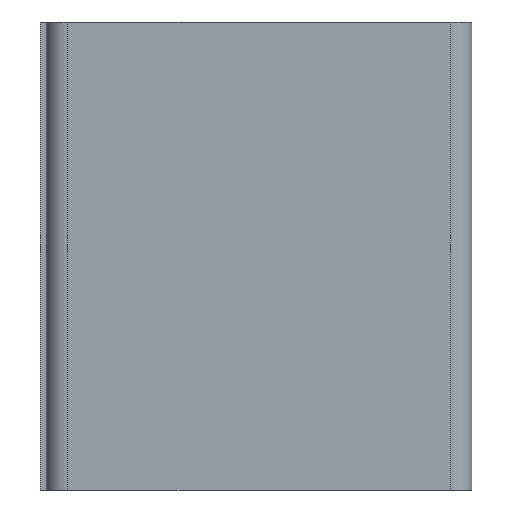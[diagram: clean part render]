
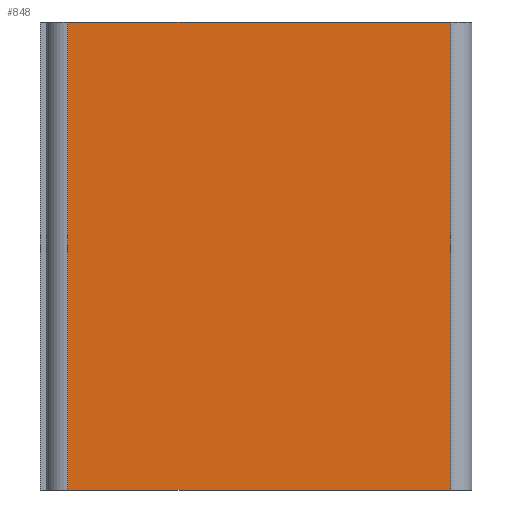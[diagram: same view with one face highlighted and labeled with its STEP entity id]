
A CAD part, left-side view. The second image highlights one B-rep face of the part: STEP entity #848.
In plain terms, the highlighted planar face has unit normal (-1, 0, 0).
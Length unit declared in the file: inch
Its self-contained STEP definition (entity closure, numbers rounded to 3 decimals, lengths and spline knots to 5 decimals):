
#38=FACE_OUTER_BOUND('',#88,.T.);
#88=EDGE_LOOP('',(#592,#593,#594,#595));
#142=LINE('',#1221,#254);
#144=LINE('',#1227,#256);
#152=LINE('',#1245,#264);
#153=LINE('',#1246,#265);
#254=VECTOR('',#989,0.022);
#256=VECTOR('',#995,0.018);
#264=VECTOR('',#1007,0.018);
#265=VECTOR('',#1008,0.022);
#363=VERTEX_POINT('',#1218);
#364=VERTEX_POINT('',#1220);
#366=VERTEX_POINT('',#1226);
#374=VERTEX_POINT('',#1244);
#447=EDGE_CURVE('',#363,#364,#142,.T.);
#450=EDGE_CURVE('',#364,#366,#144,.T.);
#459=EDGE_CURVE('',#374,#363,#152,.T.);
#460=EDGE_CURVE('',#366,#374,#153,.T.);
#592=ORIENTED_EDGE('',*,*,#447,.F.);
#593=ORIENTED_EDGE('',*,*,#459,.F.);
#594=ORIENTED_EDGE('',*,*,#460,.F.);
#595=ORIENTED_EDGE('',*,*,#450,.F.);
#801=PLANE('',#912);
#848=ADVANCED_FACE('',(#38),#801,.T.);
#912=AXIS2_PLACEMENT_3D('',#1243,#1005,#1006);
#989=DIRECTION('',(0.,0.,-1.));
#995=DIRECTION('',(0.,1.,0.));
#1005=DIRECTION('center_axis',(-1.,0.,0.));
#1006=DIRECTION('ref_axis',(0.,-1.,0.));
#1007=DIRECTION('',(0.,-1.,0.));
#1008=DIRECTION('',(0.,0.,1.));
#1218=CARTESIAN_POINT('',(-0.02,0.001,0.011));
#1220=CARTESIAN_POINT('',(-0.02,0.001,-0.011));
#1221=CARTESIAN_POINT('',(-0.02,0.001,0.));
#1226=CARTESIAN_POINT('',(-0.02,0.019,-0.011));
#1227=CARTESIAN_POINT('',(-0.02,0.02,-0.011));
#1243=CARTESIAN_POINT('Origin',(-0.02,0.02,0.));
#1244=CARTESIAN_POINT('',(-0.02,0.019,0.011));
#1245=CARTESIAN_POINT('',(-0.02,0.02,0.011));
#1246=CARTESIAN_POINT('',(-0.02,0.019,0.));
